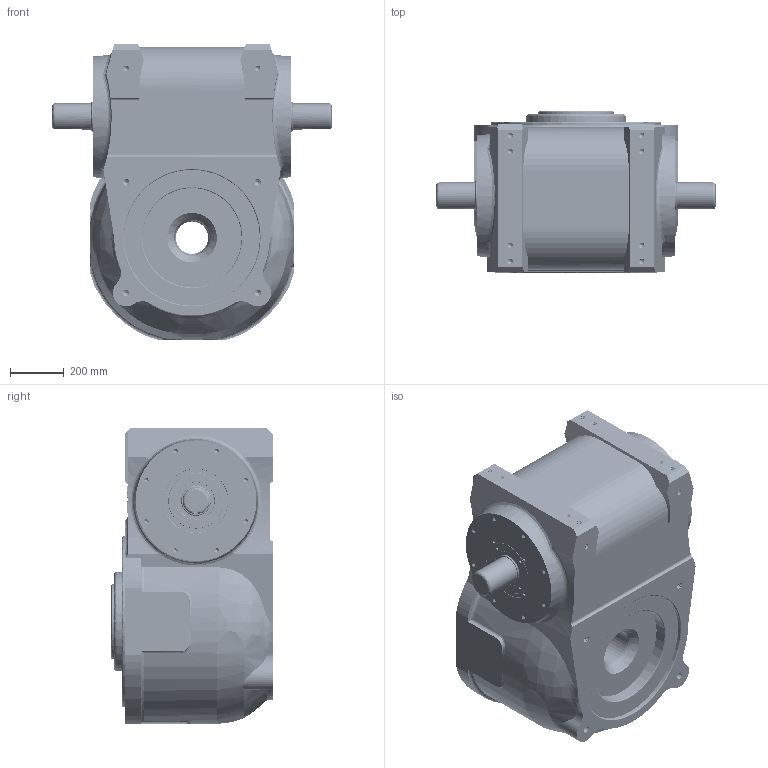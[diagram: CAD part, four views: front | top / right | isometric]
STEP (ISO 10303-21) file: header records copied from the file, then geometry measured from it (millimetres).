
FILE_DESCRIPTION (( 'STEP AP214' ), '1' );
FILE_NAME ('ER-RU450DA英锐凸轮分割器3D固定盘和法兰面加销孔图纸(电话15062628977)AA.STEP', '2022-11-01T09:36:14', ( '微软用户' ), ( '微软中国' ), 'SwSTEP 2.0', 'SolidWorks 2017', '' );
FILE_SCHEMA (( 'AUTOMOTIVE_DESIGN' ));
Length unit declared in the file: millimetre
Products named in the file (1): ER-RU450DA英锐凸轮分割器3D固定盘和法兰面加销孔图纸(电话15062628977)AA
Bounding box: 1040 x 600 x 1100 mm (x, y, z)
Volume: 381643823.3 mm3; surface area: 3858056.4 mm2
Topology: 1 solids, 1 shells, 2539 faces, 6951 edges, 4454 vertices
Faces by surface type: cylinder 1587, plane 339, bspline 331, cone 282
Entity records: 223348 total; most frequent: CARTESIAN_POINT 169370, ORIENTED_EDGE 13682, DIRECTION 8424, EDGE_CURVE 6841, VERTEX_POINT 4454, AXIS2_PLACEMENT_3D 2904, EDGE_LOOP 2691, LINE 2616
